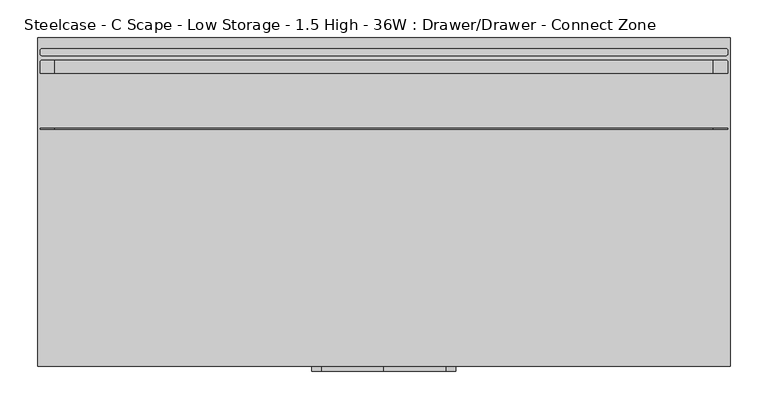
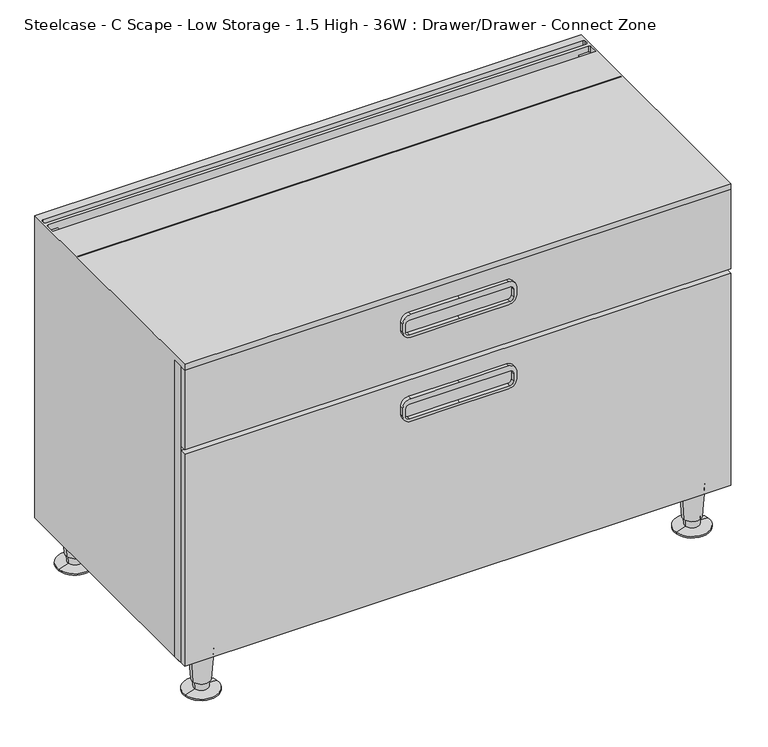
"""IFC4 building model written with IfcOpenShell, lengths in millimetres: furniture geometry, Steelcase - C Scape - Low Storage - 1.5 High - 36W : Drawer/Drawer - Connect Zone."""

from ifc_helpers import new_model, si_unit, point, frame, frame_2d, origin, place, context, project, spatial, polyline, circle_curve, trimmed, segment, composite_curve, outline, extrude, source, transform, mapped, element, save
from ifc_brep_helpers import plane_surface, cylinder_surface, revolved_surface, advanced_brep


def steelcase_c_scape_low_storage_1_5_high_36w_drawer_drawer_56496b48(model_context):
    return source(origin(), model_context, "Body", "SolidModel", [
        extrude(outline(polyline([(76.2, 0.0), (76.2, 913.13), (599.44, 913.13), (599.44, 0.0), (76.2, 0.0)]), holes=[polyline([(458.7875121, 891.1617285), (458.7875121, 21.3382324), (582.93, 21.3382324), (582.93, 891.1617285), (458.7875121, 891.1617285)]), polyline([(92.7100024, 891.1617285), (92.7100024, 21.3382324), (436.8419, 21.3382324), (436.8419, 891.1617285), (92.7100024, 891.1617285)])]), frame((0.0, -421.6443408, 0.0), z_axis=(0.0, 1.0, 0.0), x_axis=(0.0, 0.0, 1.0)), (0.0, 0.0, 1.0), 17.2762904),
        extrude(outline(composite_curve([segment(trimmed(circle_curve(frame_2d((558.165, 374.0147442)), 12.7), [point((570.865, 374.0147442))], [point((558.165, 361.3147442))], False, "CARTESIAN"), True, "CONTINUOUS"), segment(polyline([(558.165, 361.3147442), (543.5600291, 361.3147442)]), True, "CONTINUOUS"), segment(trimmed(circle_curve(frame_2d((543.5600291, 374.0147442)), 12.7), [point((543.5600291, 361.3147442))], [point((530.8600291, 374.0147442))], False, "CARTESIAN"), True, "CONTINUOUS"), segment(polyline([(530.8600291, 374.0147442), (530.8600291, 456.2475), (530.8600291, 538.4802558)]), True, "CONTINUOUS"), segment(trimmed(circle_curve(frame_2d((543.5600291, 538.4802558)), 12.7), [point((530.8600291, 538.4802558))], [point((543.5600291, 551.1802558))], False, "CARTESIAN"), True, "CONTINUOUS"), segment(polyline([(543.5600291, 551.1802558), (558.165, 551.1802558)]), True, "CONTINUOUS"), segment(trimmed(circle_curve(frame_2d((558.165, 538.4802558)), 12.7), [point((558.165, 551.1802558))], [point((570.865, 538.4802558))], False, "CARTESIAN"), True, "CONTINUOUS"), segment(polyline([(570.865, 538.4802558), (570.865, 456.2475), (570.865, 374.0147442)]), True, "CONTINUOUS")], self_intersect=False), holes=[composite_curve([segment(trimmed(circle_curve(frame_2d((554.7360184, 372.4923565)), 6.35), [point((554.7360184, 366.1423565))], [point((561.0860184, 372.4923565))], True, "CARTESIAN"), True, "CONTINUOUS"), segment(polyline([(561.0860184, 372.4923565), (561.0860184, 456.2475), (561.0860184, 540.0026435)]), True, "CONTINUOUS"), segment(trimmed(circle_curve(frame_2d((554.7360184, 540.0026435)), 6.35), [point((561.0860184, 540.0026435))], [point((554.7360184, 546.3526435))], True, "CARTESIAN"), True, "CONTINUOUS"), segment(polyline([(554.7360184, 546.3526435), (542.0360063, 546.3526435)]), True, "CONTINUOUS"), segment(trimmed(circle_curve(frame_2d((542.0360063, 540.0026435)), 6.35), [point((542.0360063, 546.3526435))], [point((535.6860063, 540.0026435))], True, "CARTESIAN"), True, "CONTINUOUS"), segment(polyline([(535.6860063, 540.0026435), (535.6860063, 456.2475), (535.6860063, 372.4923565)]), True, "CONTINUOUS"), segment(trimmed(circle_curve(frame_2d((542.0360063, 372.4923565)), 6.35), [point((535.6860063, 372.4923565))], [point((542.0360063, 366.1423565))], True, "CARTESIAN"), True, "CONTINUOUS"), segment(polyline([(542.0360063, 366.1423565), (554.7360184, 366.1423565)]), True, "CONTINUOUS")], self_intersect=False)]), frame((0.0, -439.42, 0.0), z_axis=(0.0, 1.0, 0.0), x_axis=(0.0, 0.0, 1.0)), (0.0, 0.0, 1.0), 6.35),
        extrude(outline(composite_curve([segment(trimmed(circle_curve(frame_2d((409.5749879, 374.0147442)), 12.7), [point((422.2749879, 374.0147442))], [point((409.5749879, 361.3147442))], False, "CARTESIAN"), True, "CONTINUOUS"), segment(polyline([(409.5749879, 361.3147442), (394.970017, 361.3147442)]), True, "CONTINUOUS"), segment(trimmed(circle_curve(frame_2d((394.970017, 374.0147442)), 12.7), [point((394.970017, 361.3147442))], [point((382.270017, 374.0147442))], False, "CARTESIAN"), True, "CONTINUOUS"), segment(polyline([(382.270017, 374.0147442), (382.270017, 456.2475), (382.270017, 538.4802558)]), True, "CONTINUOUS"), segment(trimmed(circle_curve(frame_2d((394.970017, 538.4802558)), 12.7), [point((382.270017, 538.4802558))], [point((394.970017, 551.1802558))], False, "CARTESIAN"), True, "CONTINUOUS"), segment(polyline([(394.970017, 551.1802558), (409.5749879, 551.1802558)]), True, "CONTINUOUS"), segment(trimmed(circle_curve(frame_2d((409.5749879, 538.4802558)), 12.7), [point((409.5749879, 551.1802558))], [point((422.2749879, 538.4802558))], False, "CARTESIAN"), True, "CONTINUOUS"), segment(polyline([(422.2749879, 538.4802558), (422.2749879, 456.2475), (422.2749879, 374.0147442)]), True, "CONTINUOUS")], self_intersect=False), holes=[composite_curve([segment(trimmed(circle_curve(frame_2d((406.1460063, 372.4923565)), 6.35), [point((406.1460063, 366.1423565))], [point((412.4960063, 372.4923565))], True, "CARTESIAN"), True, "CONTINUOUS"), segment(polyline([(412.4960063, 372.4923565), (412.4960063, 456.2475), (412.4960063, 540.0026435)]), True, "CONTINUOUS"), segment(trimmed(circle_curve(frame_2d((406.1460063, 540.0026435)), 6.35), [point((412.4960063, 540.0026435))], [point((406.1460063, 546.3526435))], True, "CARTESIAN"), True, "CONTINUOUS"), segment(polyline([(406.1460063, 546.3526435), (393.4459942, 546.3526435)]), True, "CONTINUOUS"), segment(trimmed(circle_curve(frame_2d((393.4459942, 540.0026435)), 6.35), [point((393.4459942, 546.3526435))], [point((387.0959942, 540.0026435))], True, "CARTESIAN"), True, "CONTINUOUS"), segment(polyline([(387.0959942, 540.0026435), (387.0959942, 456.2475), (387.0959942, 372.4923565)]), True, "CONTINUOUS"), segment(trimmed(circle_curve(frame_2d((393.4459942, 372.4923565)), 6.35), [point((387.0959942, 372.4923565))], [point((393.4459942, 366.1423565))], True, "CARTESIAN"), True, "CONTINUOUS"), segment(polyline([(393.4459942, 366.1423565), (406.1460063, 366.1423565)]), True, "CONTINUOUS")], self_intersect=False)]), frame((0.0, -439.42, 0.0), z_axis=(0.0, 1.0, 0.0), x_axis=(0.0, 0.0, 1.0)), (0.0, 0.0, 1.0), 6.35),
        advanced_brep(
        [(885.8598695, -31.5218435, 76.2), (848.1981305, -37.2840847, 76.2), (867.029, -34.4029641, 76.2), (881.9095214, -32.1262463, 19.05), (852.1484786, -36.6796819, 19.05), (879.4799345, -32.4979728, 19.05), (854.5780655, -36.3079555, 19.05), (878.791165, -32.6033544, 5.7545598), (855.266835, -36.2025738, 5.7545598), (896.1400485, -29.9489775, 2.5119506), (837.9179515, -38.8569507, 2.5119506), (896.1400485, -29.9489775, 0.0), (837.9179515, -38.8569507, 0.0), (867.029, -34.4029641, 0.0)],
        [
            (0, 1, circle_curve(frame((867.029, -34.4029641, 76.2), z_axis=(0.0, 0.0, 1.0), x_axis=(0.0, -1.0, 0.0)), 19.05)),
            (1, 2),
            (2, 0),
            (1, 0, circle_curve(frame((867.029, -34.4029641, 76.2), z_axis=(0.0, 0.0, 1.0), x_axis=(0.0, -1.0, 0.0)), 19.05)),
            (3, 4, circle_curve(frame((867.029, -34.4029641, 19.05), z_axis=(0.0, 0.0, 1.0), x_axis=(0.0, -1.0, 0.0)), 15.0536827)),
            (4, 1),
            (0, 3),
            (4, 3, circle_curve(frame((867.029, -34.4029641, 19.05), z_axis=(0.0, 0.0, 1.0), x_axis=(0.0, -1.0, 0.0)), 15.0536827)),
            (5, 6, circle_curve(frame((867.029, -34.4029641, 19.05), z_axis=(0.0, 0.0, 1.0), x_axis=(0.0, -1.0, 0.0)), 12.5958232)),
            (6, 4),
            (3, 5),
            (6, 5, circle_curve(frame((867.029, -34.4029641, 19.05), z_axis=(0.0, 0.0, 1.0), x_axis=(0.0, -1.0, 0.0)), 12.5958232)),
            (7, 8, circle_curve(frame((867.029, -34.4029641, 5.7545598), z_axis=(0.0, 0.0, 1.0), x_axis=(0.0, -1.0, 0.0)), 11.8990387)),
            (8, 6),
            (5, 7),
            (8, 7, circle_curve(frame((867.029, -34.4029641, 5.7545598), z_axis=(0.0, 0.0, 1.0), x_axis=(0.0, -1.0, 0.0)), 11.8990387)),
            (9, 10, circle_curve(frame((867.029, -34.4029641, 2.5119506), z_axis=(0.0, 0.0, 1.0), x_axis=(0.0, -1.0, 0.0)), 29.4498071)),
            (10, 8),
            (7, 9),
            (10, 9, circle_curve(frame((867.029, -34.4029641, 2.5119506), z_axis=(0.0, 0.0, 1.0), x_axis=(0.0, -1.0, 0.0)), 29.4498071)),
            (11, 12, circle_curve(frame((867.029, -34.4029641, 0.0), z_axis=(0.0, 0.0, 1.0), x_axis=(0.0, -1.0, 0.0)), 29.4498071)),
            (12, 10),
            (9, 11),
            (12, 11, circle_curve(frame((867.029, -34.4029641, 0.0), z_axis=(0.0, 0.0, 1.0), x_axis=(0.0, -1.0, 0.0)), 29.4498071)),
            (13, 12),
            (11, 13),
        ],
        [
            plane_surface(frame((867.029, -34.4029641, 76.2), z_axis=(0.0, 0.0, 1.0), x_axis=(0.0, -1.0, 0.0))),
            revolved_surface(polyline([(867.029, -53.4529641, 76.2), (867.029, -49.4566468, 19.05)]), (867.029, -34.4029641, 25.4), (0.0, 0.0, -1.0)),
            plane_surface(frame((867.029, -34.4029641, 19.05), z_axis=(0.0, 0.0, -1.0), x_axis=(0.0, -1.0, 0.0))),
            revolved_surface(polyline([(867.029, -46.9987873, 19.05), (867.029, -46.3020028, 5.7545598)]), (867.029, -34.4029641, 25.4), (0.0, 0.0, -1.0)),
            revolved_surface(polyline([(867.029, -46.3020028, 5.7545598), (867.029, -63.8527712, 2.5119506)]), (867.029, -34.4029641, 25.4), (0.0, 0.0, -1.0)),
            cylinder_surface(frame((867.029, -34.4029641, 25.4), z_axis=(0.0, 0.0, -1.0), x_axis=(0.0, -1.0, 0.0)), 29.4498071),
            plane_surface(frame((867.029, -34.4029641, 0.0), z_axis=(0.0, 0.0, -1.0), x_axis=(0.0, -1.0, 0.0))),
        ],
        [
            (0, [[1, 2, 3]]),
            (0, [[4, -3, -2]]),
            (1, [[5, 6, -1, 7]]),
            (1, [[8, -7, -4, -6]]),
            (2, [[9, 10, -5, 11]]),
            (2, [[12, -11, -8, -10]]),
            (3, [[13, 14, -9, 15]]),
            (3, [[16, -15, -12, -14]]),
            (4, [[17, 18, -13, 19]]),
            (4, [[20, -19, -16, -18]]),
            (5, [[21, 22, -17, 23]]),
            (5, [[24, -23, -20, -22]]),
            (6, [[25, -21, 26]]),
            (6, [[-26, -24, -25]]),
        ],
    ),
        advanced_brep(
        [(885.8598695, -397.1702762, 76.2), (848.1981305, -402.9325174, 76.2), (867.029, -400.0513968, 76.2), (881.9095214, -397.774679, 19.05), (852.1484786, -402.3281146, 19.05), (879.4799345, -398.1464055, 19.05), (854.5780655, -401.9563882, 19.05), (878.791165, -398.2517871, 5.7545598), (855.266835, -401.8510065, 5.7545598), (896.1400485, -395.5974102, 2.5119506), (837.9179515, -404.5053834, 2.5119506), (896.1400485, -395.5974102, 0.0), (837.9179515, -404.5053834, 0.0), (867.029, -400.0513968, 0.0)],
        [
            (0, 1, circle_curve(frame((867.029, -400.0513968, 76.2), z_axis=(0.0, 0.0, 1.0), x_axis=(0.0, -1.0, 0.0)), 19.05)),
            (1, 2),
            (2, 0),
            (1, 0, circle_curve(frame((867.029, -400.0513968, 76.2), z_axis=(0.0, 0.0, 1.0), x_axis=(0.0, -1.0, 0.0)), 19.05)),
            (3, 4, circle_curve(frame((867.029, -400.0513968, 19.05), z_axis=(0.0, 0.0, 1.0), x_axis=(0.0, -1.0, 0.0)), 15.0536827)),
            (4, 1),
            (0, 3),
            (4, 3, circle_curve(frame((867.029, -400.0513968, 19.05), z_axis=(0.0, 0.0, 1.0), x_axis=(0.0, -1.0, 0.0)), 15.0536827)),
            (5, 6, circle_curve(frame((867.029, -400.0513968, 19.05), z_axis=(0.0, 0.0, 1.0), x_axis=(0.0, -1.0, 0.0)), 12.5958232)),
            (6, 4),
            (3, 5),
            (6, 5, circle_curve(frame((867.029, -400.0513968, 19.05), z_axis=(0.0, 0.0, 1.0), x_axis=(0.0, -1.0, 0.0)), 12.5958232)),
            (7, 8, circle_curve(frame((867.029, -400.0513968, 5.7545598), z_axis=(0.0, 0.0, 1.0), x_axis=(0.0, -1.0, 0.0)), 11.8990387)),
            (8, 6),
            (5, 7),
            (8, 7, circle_curve(frame((867.029, -400.0513968, 5.7545598), z_axis=(0.0, 0.0, 1.0), x_axis=(0.0, -1.0, 0.0)), 11.8990387)),
            (9, 10, circle_curve(frame((867.029, -400.0513968, 2.5119506), z_axis=(0.0, 0.0, 1.0), x_axis=(0.0, -1.0, 0.0)), 29.4498071)),
            (10, 8),
            (7, 9),
            (10, 9, circle_curve(frame((867.029, -400.0513968, 2.5119506), z_axis=(0.0, 0.0, 1.0), x_axis=(0.0, -1.0, 0.0)), 29.4498071)),
            (11, 12, circle_curve(frame((867.029, -400.0513968, 0.0), z_axis=(0.0, 0.0, 1.0), x_axis=(0.0, -1.0, 0.0)), 29.4498071)),
            (12, 10),
            (9, 11),
            (12, 11, circle_curve(frame((867.029, -400.0513968, 0.0), z_axis=(0.0, 0.0, 1.0), x_axis=(0.0, -1.0, 0.0)), 29.4498071)),
            (13, 12),
            (11, 13),
        ],
        [
            plane_surface(frame((867.029, -400.0513968, 76.2), z_axis=(0.0, 0.0, 1.0), x_axis=(0.0, -1.0, 0.0))),
            revolved_surface(polyline([(867.029, -419.1013968, 76.2), (867.029, -415.1050795, 19.05)]), (867.029, -400.0513968, 25.4), (0.0, 0.0, -1.0)),
            plane_surface(frame((867.029, -400.0513968, 19.05), z_axis=(0.0, 0.0, -1.0), x_axis=(0.0, -1.0, 0.0))),
            revolved_surface(polyline([(867.029, -412.64722, 19.05), (867.029, -411.9504355, 5.7545598)]), (867.029, -400.0513968, 25.4), (0.0, 0.0, -1.0)),
            revolved_surface(polyline([(867.029, -411.9504355, 5.7545598), (867.029, -429.5012039, 2.5119506)]), (867.029, -400.0513968, 25.4), (0.0, 0.0, -1.0)),
            cylinder_surface(frame((867.029, -400.0513968, 25.4), z_axis=(0.0, 0.0, -1.0), x_axis=(0.0, -1.0, 0.0)), 29.4498071),
            plane_surface(frame((867.029, -400.0513968, 0.0), z_axis=(0.0, 0.0, -1.0), x_axis=(0.0, -1.0, 0.0))),
        ],
        [
            (0, [[1, 2, 3]]),
            (0, [[4, -3, -2]]),
            (1, [[5, 6, -1, 7]]),
            (1, [[8, -7, -4, -6]]),
            (2, [[9, 10, -5, 11]]),
            (2, [[12, -11, -8, -10]]),
            (3, [[13, 14, -9, 15]]),
            (3, [[16, -15, -12, -14]]),
            (4, [[17, 18, -13, 19]]),
            (4, [[20, -19, -16, -18]]),
            (5, [[21, 22, -17, 23]]),
            (5, [[24, -23, -20, -22]]),
            (6, [[25, -21, 26]]),
            (6, [[-26, -24, -25]]),
        ],
    ),
        advanced_brep(
        [(65.5422821, -397.1702762, 76.2), (27.8805432, -402.9325174, 76.2), (46.7114126, -400.0513968, 76.2), (61.5919341, -397.774679, 19.05), (31.8308912, -402.3281146, 19.05), (59.1623471, -398.1464055, 19.05), (34.2604781, -401.9563882, 19.05), (58.4735776, -398.2517871, 5.7545598), (34.9492476, -401.8510065, 5.7545598), (75.8224611, -395.5974102, 2.5119506), (17.6003641, -404.5053834, 2.5119506), (75.8224611, -395.5974102, 0.0), (17.6003641, -404.5053834, 0.0), (46.7114126, -400.0513968, 0.0)],
        [
            (0, 1, circle_curve(frame((46.7114126, -400.0513968, 76.2), z_axis=(0.0, 0.0, 1.0), x_axis=(0.0, -1.0, 0.0)), 19.05)),
            (1, 2),
            (2, 0),
            (1, 0, circle_curve(frame((46.7114126, -400.0513968, 76.2), z_axis=(0.0, 0.0, 1.0), x_axis=(0.0, -1.0, 0.0)), 19.05)),
            (3, 4, circle_curve(frame((46.7114126, -400.0513968, 19.05), z_axis=(0.0, 0.0, 1.0), x_axis=(0.0, -1.0, 0.0)), 15.0536827)),
            (4, 1),
            (0, 3),
            (4, 3, circle_curve(frame((46.7114126, -400.0513968, 19.05), z_axis=(0.0, 0.0, 1.0), x_axis=(0.0, -1.0, 0.0)), 15.0536827)),
            (5, 6, circle_curve(frame((46.7114126, -400.0513968, 19.05), z_axis=(0.0, 0.0, 1.0), x_axis=(0.0, -1.0, 0.0)), 12.5958232)),
            (6, 4),
            (3, 5),
            (6, 5, circle_curve(frame((46.7114126, -400.0513968, 19.05), z_axis=(0.0, 0.0, 1.0), x_axis=(0.0, -1.0, 0.0)), 12.5958232)),
            (7, 8, circle_curve(frame((46.7114126, -400.0513968, 5.7545598), z_axis=(0.0, 0.0, 1.0), x_axis=(0.0, -1.0, 0.0)), 11.8990387)),
            (8, 6),
            (5, 7),
            (8, 7, circle_curve(frame((46.7114126, -400.0513968, 5.7545598), z_axis=(0.0, 0.0, 1.0), x_axis=(0.0, -1.0, 0.0)), 11.8990387)),
            (9, 10, circle_curve(frame((46.7114126, -400.0513968, 2.5119506), z_axis=(0.0, 0.0, 1.0), x_axis=(0.0, -1.0, 0.0)), 29.4498071)),
            (10, 8),
            (7, 9),
            (10, 9, circle_curve(frame((46.7114126, -400.0513968, 2.5119506), z_axis=(0.0, 0.0, 1.0), x_axis=(0.0, -1.0, 0.0)), 29.4498071)),
            (11, 12, circle_curve(frame((46.7114126, -400.0513968, 0.0), z_axis=(0.0, 0.0, 1.0), x_axis=(0.0, -1.0, 0.0)), 29.4498071)),
            (12, 10),
            (9, 11),
            (12, 11, circle_curve(frame((46.7114126, -400.0513968, 0.0), z_axis=(0.0, 0.0, 1.0), x_axis=(0.0, -1.0, 0.0)), 29.4498071)),
            (13, 12),
            (11, 13),
        ],
        [
            plane_surface(frame((46.7114126, -400.0513968, 76.2), z_axis=(0.0, 0.0, 1.0), x_axis=(0.0, -1.0, 0.0))),
            revolved_surface(polyline([(46.7114126, -419.1013968, 76.2), (46.7114126, -415.1050795, 19.05)]), (46.7114126, -400.0513968, 25.4), (0.0, 0.0, -1.0)),
            plane_surface(frame((46.7114126, -400.0513968, 19.05), z_axis=(0.0, 0.0, -1.0), x_axis=(0.0, -1.0, 0.0))),
            revolved_surface(polyline([(46.7114126, -412.64722, 19.05), (46.7114126, -411.9504355, 5.7545598)]), (46.7114126, -400.0513968, 25.4), (0.0, 0.0, -1.0)),
            revolved_surface(polyline([(46.7114126, -411.9504355, 5.7545598), (46.7114126, -429.5012039, 2.5119506)]), (46.7114126, -400.0513968, 25.4), (0.0, 0.0, -1.0)),
            cylinder_surface(frame((46.7114126, -400.0513968, 25.4), z_axis=(0.0, 0.0, -1.0), x_axis=(0.0, -1.0, 0.0)), 29.4498071),
            plane_surface(frame((46.7114126, -400.0513968, 0.0), z_axis=(0.0, 0.0, -1.0), x_axis=(0.0, -1.0, 0.0))),
        ],
        [
            (0, [[1, 2, 3]]),
            (0, [[4, -3, -2]]),
            (1, [[5, 6, -1, 7]]),
            (1, [[8, -7, -4, -6]]),
            (2, [[9, 10, -5, 11]]),
            (2, [[12, -11, -8, -10]]),
            (3, [[13, 14, -9, 15]]),
            (3, [[16, -15, -12, -14]]),
            (4, [[17, 18, -13, 19]]),
            (4, [[20, -19, -16, -18]]),
            (5, [[21, 22, -17, 23]]),
            (5, [[24, -23, -20, -22]]),
            (6, [[25, -21, 26]]),
            (6, [[-26, -24, -25]]),
        ],
    ),
        advanced_brep(
        [(65.5422821, -31.5218435, 76.2), (27.8805432, -37.2840847, 76.2), (46.7114126, -34.4029641, 76.2), (61.5919341, -32.1262463, 19.05), (31.8308912, -36.6796819, 19.05), (59.1623471, -32.4979728, 19.05), (34.2604781, -36.3079555, 19.05), (58.4735776, -32.6033544, 5.7545598), (34.9492476, -36.2025738, 5.7545598), (75.8224611, -29.9489775, 2.5119506), (17.6003641, -38.8569507, 2.5119506), (75.8224611, -29.9489775, 0.0), (17.6003641, -38.8569507, 0.0), (46.7114126, -34.4029641, 0.0)],
        [
            (0, 1, circle_curve(frame((46.7114126, -34.4029641, 76.2), z_axis=(0.0, 0.0, 1.0), x_axis=(0.0, -1.0, 0.0)), 19.05)),
            (1, 2),
            (2, 0),
            (1, 0, circle_curve(frame((46.7114126, -34.4029641, 76.2), z_axis=(0.0, 0.0, 1.0), x_axis=(0.0, -1.0, 0.0)), 19.05)),
            (3, 4, circle_curve(frame((46.7114126, -34.4029641, 19.05), z_axis=(0.0, 0.0, 1.0), x_axis=(0.0, -1.0, 0.0)), 15.0536827)),
            (4, 1),
            (0, 3),
            (4, 3, circle_curve(frame((46.7114126, -34.4029641, 19.05), z_axis=(0.0, 0.0, 1.0), x_axis=(0.0, -1.0, 0.0)), 15.0536827)),
            (5, 6, circle_curve(frame((46.7114126, -34.4029641, 19.05), z_axis=(0.0, 0.0, 1.0), x_axis=(0.0, -1.0, 0.0)), 12.5958232)),
            (6, 4),
            (3, 5),
            (6, 5, circle_curve(frame((46.7114126, -34.4029641, 19.05), z_axis=(0.0, 0.0, 1.0), x_axis=(0.0, -1.0, 0.0)), 12.5958232)),
            (7, 8, circle_curve(frame((46.7114126, -34.4029641, 5.7545598), z_axis=(0.0, 0.0, 1.0), x_axis=(0.0, -1.0, 0.0)), 11.8990387)),
            (8, 6),
            (5, 7),
            (8, 7, circle_curve(frame((46.7114126, -34.4029641, 5.7545598), z_axis=(0.0, 0.0, 1.0), x_axis=(0.0, -1.0, 0.0)), 11.8990387)),
            (9, 10, circle_curve(frame((46.7114126, -34.4029641, 2.5119506), z_axis=(0.0, 0.0, 1.0), x_axis=(0.0, -1.0, 0.0)), 29.4498071)),
            (10, 8),
            (7, 9),
            (10, 9, circle_curve(frame((46.7114126, -34.4029641, 2.5119506), z_axis=(0.0, 0.0, 1.0), x_axis=(0.0, -1.0, 0.0)), 29.4498071)),
            (11, 12, circle_curve(frame((46.7114126, -34.4029641, 0.0), z_axis=(0.0, 0.0, 1.0), x_axis=(0.0, -1.0, 0.0)), 29.4498071)),
            (12, 10),
            (9, 11),
            (12, 11, circle_curve(frame((46.7114126, -34.4029641, 0.0), z_axis=(0.0, 0.0, 1.0), x_axis=(0.0, -1.0, 0.0)), 29.4498071)),
            (13, 12),
            (11, 13),
        ],
        [
            plane_surface(frame((46.7114126, -34.4029641, 76.2), z_axis=(0.0, 0.0, 1.0), x_axis=(0.0, -1.0, 0.0))),
            revolved_surface(polyline([(46.7114126, -53.4529641, 76.2), (46.7114126, -49.4566468, 19.05)]), (46.7114126, -34.4029641, 25.4), (0.0, 0.0, -1.0)),
            plane_surface(frame((46.7114126, -34.4029641, 19.05), z_axis=(0.0, 0.0, -1.0), x_axis=(0.0, -1.0, 0.0))),
            revolved_surface(polyline([(46.7114126, -46.9987873, 19.05), (46.7114126, -46.3020028, 5.7545598)]), (46.7114126, -34.4029641, 25.4), (0.0, 0.0, -1.0)),
            revolved_surface(polyline([(46.7114126, -46.3020028, 5.7545598), (46.7114126, -63.8527712, 2.5119506)]), (46.7114126, -34.4029641, 25.4), (0.0, 0.0, -1.0)),
            cylinder_surface(frame((46.7114126, -34.4029641, 25.4), z_axis=(0.0, 0.0, -1.0), x_axis=(0.0, -1.0, 0.0)), 29.4498071),
            plane_surface(frame((46.7114126, -34.4029641, 0.0), z_axis=(0.0, 0.0, -1.0), x_axis=(0.0, -1.0, 0.0))),
        ],
        [
            (0, [[1, 2, 3]]),
            (0, [[4, -3, -2]]),
            (1, [[5, 6, -1, 7]]),
            (1, [[8, -7, -4, -6]]),
            (2, [[9, 10, -5, 11]]),
            (2, [[12, -11, -8, -10]]),
            (3, [[13, 14, -9, 15]]),
            (3, [[16, -15, -12, -14]]),
            (4, [[17, 18, -13, 19]]),
            (4, [[20, -19, -16, -18]]),
            (5, [[21, 22, -17, 23]]),
            (5, [[24, -23, -20, -22]]),
            (6, [[25, -21, 26]]),
            (6, [[-26, -24, -25]]),
        ],
    ),
        advanced_brep(
        [(910.3272317, -120.6444193, 609.6), (910.3272317, -119.3775195, 609.6), (910.3272317, -119.3775195, 599.44), (910.3272317, -120.6444193, 599.44), (910.3272317, -46.4703418, 609.6), (910.3272317, -32.274699, 609.6), (910.3272317, -32.274699, 599.44), (910.3272317, -46.4703418, 599.44), (910.3272317, -20.3138654, 609.6), (910.3272317, -17.0388453, 609.6), (910.3272317, -17.0388453, 599.44), (910.3272317, -20.3138654, 599.44), (913.13, 0.0055807, 609.6), (913.13, -433.07, 609.6), (913.13, -433.07, 599.44), (913.13, -404.3680504, 599.44), (913.13, -404.3680504, 76.2), (913.13, 0.0, 76.2), (0.0, -433.07, 609.6), (-0.012551, 0.0055807, 609.6), (907.6308823, -29.5783496, 609.6), (2.7826272, -46.4703418, 609.6), (2.7826272, -32.0458511, 609.6), (5.2501287, -29.5783496, 609.6), (907.3507358, -23.2903613, 609.6), (5.5670648, -23.2903613, 609.6), (2.7826272, -20.5059237, 609.6), (2.7826272, -17.0388453, 609.6), (5.4794022, -14.3420703, 609.6), (907.6304567, -14.3420703, 609.6), (2.7826272, -119.3775195, 609.6), (2.7826272, -120.6444193, 609.6), (0.0, 0.0055807, 76.2), (571.8775189, 0.0055807, 466.2677968), (340.6174811, 0.0055807, 466.2677968), (340.6174811, 0.0055807, 432.6382043), (456.2475, 0.0055807, 432.6382043), (571.8775189, 0.0055807, 432.6382043), (571.8775189, -9.5194193, 466.2677968), (340.6174811, -9.5194193, 466.2677968), (571.8775189, -9.5194193, 450.8499879), (340.6174811, -9.5194193, 450.8499879), (5.2501287, -29.5783496, 599.44), (21.3256814, -29.5783496, 599.44), (21.3256814, -29.5783496, 458.7875121), (891.1617285, -29.5783496, 458.7875121), (891.1617285, -29.5783496, 599.44), (907.6308823, -29.5783496, 599.44), (891.1617285, -119.3775195, 599.44), (21.3256814, -119.3775195, 599.44), (21.3256814, -46.4703418, 599.44), (891.1617285, -46.4703418, 599.44), (907.3507358, -23.2903613, 599.44), (5.5670648, -23.2903613, 599.44), (2.7826272, -20.5059237, 599.44), (2.7826272, -32.0458511, 599.44), (2.7826272, -46.4703418, 599.44), (2.7826272, -119.3775195, 599.44), (5.4794022, -14.3420703, 599.44), (907.6304567, -14.3420703, 599.44), (2.7826272, -17.0388453, 599.44), (21.3256814, -120.6444193, 599.44), (2.7826272, -120.6444193, 599.44), (891.1617285, -120.6444193, 599.44), (21.3256814, -404.3680504, 92.7100024), (891.1617285, -404.3680504, 92.7100024), (891.1617285, -9.5194193, 92.7100024), (21.3256814, -9.5194193, 92.7100024), (0.0, -404.3680504, 76.2), (0.0, -404.3680504, 599.44), (0.0, -433.07, 599.44), (891.1617285, -404.3680504, 599.44), (891.1617285, -404.3680504, 458.7875121), (21.3256814, -404.3680504, 458.7875121), (21.3256814, -404.3680504, 599.44), (21.3256814, -404.3680504, 450.8499879), (891.1617285, -404.3680504, 450.8499879), (21.3256814, -126.9863574, 599.44), (891.1617285, -126.9863574, 599.44), (21.3256814, -126.9863574, 458.7875121), (891.1617285, -126.9863574, 458.7875121), (891.1617285, -120.6444193, 458.7875121), (21.3256814, -120.6444193, 458.7875121), (21.3256814, -9.5194193, 450.8499879), (891.1617285, -9.5194193, 450.8499879), (571.8775189, -9.5194193, 432.6382043), (456.2475, -9.5194193, 432.6382043), (340.6174811, -9.5194193, 432.6382043)],
        [
            (0, 1),
            (1, 2),
            (2, 3),
            (3, 0),
            (4, 5),
            (5, 6),
            (6, 7),
            (7, 4),
            (8, 9),
            (9, 10),
            (10, 11),
            (11, 8),
            (12, 13),
            (13, 14),
            (14, 15),
            (15, 16),
            (16, 17),
            (17, 12),
            (18, 13),
            (12, 19),
            (19, 18),
            (20, 5, circle_curve(frame((907.6308823, -32.274699, 609.6), z_axis=(0.0, 0.0, -1.0), x_axis=(1.0, 0.0, 0.0)), 2.6963494)),
            (4, 21),
            (21, 22),
            (22, 23, circle_curve(frame((5.2501287, -32.0458511, 609.6), z_axis=(0.0, 0.0, -1.0), x_axis=(1.0, 0.0, 0.0)), 2.4675015)),
            (23, 20),
            (8, 24, circle_curve(frame((907.3507358, -20.3138654, 609.6), z_axis=(0.0, 0.0, -1.0), x_axis=(1.0, 0.0, 0.0)), 2.9764959)),
            (24, 25),
            (25, 26, circle_curve(frame((5.5670648, -20.5059237, 609.6), z_axis=(0.0, 0.0, -1.0), x_axis=(1.0, 0.0, 0.0)), 2.7844376)),
            (26, 27),
            (27, 28, circle_curve(frame((5.4794022, -17.0388453, 609.6), z_axis=(0.0, 0.0, -1.0), x_axis=(1.0, 0.0, 0.0)), 2.696775)),
            (28, 29),
            (29, 9, circle_curve(frame((907.6304567, -17.0388453, 609.6), z_axis=(0.0, 0.0, -1.0), x_axis=(1.0, 0.0, 0.0)), 2.696775)),
            (30, 1),
            (0, 31),
            (31, 30),
            (17, 32),
            (32, 19),
            (33, 34),
            (34, 35),
            (35, 36),
            (36, 37),
            (37, 33),
            (33, 38),
            (38, 39),
            (39, 34),
            (38, 40),
            (40, 41),
            (41, 39),
            (23, 42),
            (42, 43),
            (43, 44),
            (44, 45),
            (45, 46),
            (46, 47),
            (47, 20),
            (48, 49),
            (49, 50),
            (50, 51),
            (51, 48),
            (47, 6, circle_curve(frame((907.6308823, -32.274699, 599.44), z_axis=(0.0, 0.0, -1.0), x_axis=(1.0, 0.0, 0.0)), 2.6963494)),
            (11, 52, circle_curve(frame((907.3507358, -20.3138654, 599.44), z_axis=(0.0, 0.0, -1.0), x_axis=(1.0, 0.0, 0.0)), 2.9764959)),
            (52, 24),
            (52, 53),
            (53, 25),
            (53, 54, circle_curve(frame((5.5670648, -20.5059237, 599.44), z_axis=(0.0, 0.0, -1.0), x_axis=(1.0, 0.0, 0.0)), 2.7844376)),
            (54, 26),
            (22, 55),
            (55, 42, circle_curve(frame((5.2501287, -32.0458511, 599.44), z_axis=(0.0, 0.0, -1.0), x_axis=(1.0, 0.0, 0.0)), 2.4675015)),
            (7, 51),
            (50, 56),
            (56, 21),
            (30, 57),
            (57, 49),
            (48, 2),
            (28, 58),
            (58, 59),
            (59, 29),
            (59, 10, circle_curve(frame((907.6304567, -17.0388453, 599.44), z_axis=(0.0, 0.0, -1.0), x_axis=(1.0, 0.0, 0.0)), 2.696775)),
            (27, 60),
            (60, 58, circle_curve(frame((5.4794022, -17.0388453, 599.44), z_axis=(0.0, 0.0, -1.0), x_axis=(1.0, 0.0, 0.0)), 2.696775)),
            (61, 49),
            (57, 62),
            (62, 61),
            (48, 63),
            (63, 3),
            (60, 54),
            (50, 43),
            (55, 56),
            (46, 51),
            (64, 65),
            (65, 66),
            (66, 67),
            (67, 64),
            (16, 68),
            (68, 32),
            (68, 69),
            (69, 70),
            (70, 18),
            (15, 71),
            (71, 72),
            (72, 73),
            (73, 74),
            (74, 69),
            (64, 75),
            (75, 76),
            (76, 65),
            (70, 14),
            (74, 77),
            (77, 78),
            (78, 71),
            (77, 79),
            (79, 80),
            (80, 78),
            (63, 81),
            (81, 82),
            (82, 61),
            (62, 31),
            (44, 82),
            (81, 45),
            (79, 73),
            (72, 80),
            (75, 83),
            (83, 41),
            (40, 84),
            (84, 76),
            (67, 83),
            (84, 66),
            (85, 86),
            (86, 87),
            (87, 41),
            (40, 85),
            (37, 85),
            (36, 86),
            (35, 87),
        ],
        [
            plane_surface(frame((910.3272317, -120.6444193, 609.6), z_axis=(-1.0, 0.0, 0.0), x_axis=(0.0, 0.0, 1.0))),
            plane_surface(frame((913.13, -120.6444193, 609.6), z_axis=(1.0, 0.0, 0.0), x_axis=(0.0, 0.0, -1.0))),
            plane_surface(frame((910.3272317, -120.6444193, 609.6), z_axis=(0.0, 0.0, 1.0), x_axis=(1.0, 0.0, 0.0))),
            plane_surface(frame((910.3272317, 0.0055807, 609.6), z_axis=(0.0, 1.0, 0.0), x_axis=(1.0, 0.0, 0.0))),
            plane_surface(frame((910.3272317, 0.0055807, 466.2677968), z_axis=(0.0, 0.0, -1.0), x_axis=(1.0, 0.0, 0.0))),
            plane_surface(frame((910.3272317, -9.5194193, 466.2677968), z_axis=(0.0, 1.0, 0.0), x_axis=(1.0, 0.0, 0.0))),
            plane_surface(frame((910.3272317, -29.5783496, 458.7875121), z_axis=(0.0, -1.0, 0.0), x_axis=(1.0, 0.0, 0.0))),
            plane_surface(frame((910.3272317, -29.5783496, 599.44), z_axis=(0.0, 0.0, -1.0), x_axis=(1.0, 0.0, 0.0))),
            revolved_surface(polyline([(910.3272317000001, -32.274699, 599.44), (910.3272317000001, -32.274699, 609.6)]), (907.6308823, -32.274699, 599.44), (0.0, 0.0, -1.0)),
            revolved_surface(polyline([(910.3272317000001, -20.3138654, 599.44), (910.3272317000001, -20.3138654, 609.6)]), (907.3507358, -20.3138654, 599.44), (0.0, 0.0, -1.0)),
            plane_surface(frame((907.3507358, -23.2903613, 609.6), z_axis=(0.0, 1.0, 0.0), x_axis=(0.0, 0.0, -1.0))),
            revolved_surface(polyline([(8.3515024, -20.5059237, 599.44), (8.3515024, -20.5059237, 609.6)]), (5.5670648, -20.5059237, 599.44), (0.0, 0.0, -1.0)),
            revolved_surface(polyline([(7.7176302, -32.0458511, 599.44), (7.7176302, -32.0458511, 609.6)]), (5.2501287, -32.0458511, 599.44), (0.0, 0.0, -1.0)),
            plane_surface(frame((910.3272317, -46.4703418, 609.6), z_axis=(0.0, 1.0, 0.0), x_axis=(0.0, 0.0, -1.0))),
            plane_surface(frame((2.7826272, -119.3775195, 609.6), z_axis=(0.0, -1.0, 0.0), x_axis=(0.0, 0.0, -1.0))),
            plane_surface(frame((5.4794022, -14.3420703, 609.6), z_axis=(0.0, -1.0, 0.0), x_axis=(0.0, 0.0, -1.0))),
            revolved_surface(polyline([(910.3272317, -17.0388453, 599.44), (910.3272317, -17.0388453, 609.6)]), (907.6304567, -17.0388453, 41.6295811), (0.0, 0.0, -1.0)),
            revolved_surface(polyline([(8.1761772, -17.0388453, 599.44), (8.1761772, -17.0388453, 609.6)]), (5.4794022, -17.0388453, 41.6295811), (0.0, 0.0, -1.0)),
            plane_surface(frame((910.3272317, 0.0055807, 599.44), z_axis=(0.0, 0.0, 1.0), x_axis=(-1.0, 0.0, 0.0))),
            plane_surface(frame((0.0, 0.0, 92.7100024), z_axis=(0.0, 0.0, 1.0), x_axis=(-1.0, 0.0, 0.0))),
            plane_surface(frame((0.0, 0.0, 76.2), z_axis=(0.0, 0.0, -1.0), x_axis=(1.0, 0.0, 0.0))),
            plane_surface(frame((0.0, 0.0, 92.7100024), z_axis=(-1.0, 0.0, 0.0), x_axis=(0.0, 0.0, -1.0))),
            plane_surface(frame((0.0, -404.3680504, 92.7100024), z_axis=(0.0, -1.0, 0.0), x_axis=(0.0, 0.0, -1.0))),
            plane_surface(frame((913.13, -433.07, 609.6), z_axis=(0.0, -1.0, 0.0), x_axis=(-1.0, 0.0, 0.0))),
            plane_surface(frame((913.13, -433.07, 599.44), z_axis=(0.0, 0.0, -1.0), x_axis=(-1.0, 0.0, 0.0))),
            plane_surface(frame((913.13, -126.9863574, 599.44), z_axis=(0.0, -1.0, 0.0), x_axis=(-1.0, 0.0, 0.0))),
            plane_surface(frame((913.13, -120.6444193, 457.1999955), z_axis=(0.0, 1.0, 0.0), x_axis=(-1.0, 0.0, 0.0))),
            plane_surface(frame((0.0, -9.5194193, 458.7875121), z_axis=(0.0, 0.0, 1.0), x_axis=(-1.0, 0.0, 0.0))),
            plane_surface(frame((0.0, -9.5194193, 450.8499879), z_axis=(0.0, 0.0, -1.0), x_axis=(1.0, 0.0, 0.0))),
            plane_surface(frame((21.3256814, -404.3680504, 599.44), z_axis=(1.0, 0.0, 0.0), x_axis=(0.0, 0.0, -1.0))),
            plane_surface(frame((891.1617285, -9.5194193, 599.44), z_axis=(-1.0, 0.0, 0.0), x_axis=(0.0, 0.0, -1.0))),
            plane_surface(frame((2.7826272, -120.6444193, 599.44), z_axis=(1.0, 0.0, 0.0), x_axis=(0.0, 1.0, 0.0))),
            plane_surface(frame((571.8775189, -9.5194193, 459.9177968), z_axis=(0.0, -1.0, 0.0), x_axis=(0.0, 0.0, -1.0))),
            plane_surface(frame((571.8775189, -9.5194193, 466.2677968), z_axis=(-1.0, 0.0, 0.0), x_axis=(0.0, 1.0, 0.0))),
            plane_surface(frame((571.8775189, -9.5194193, 432.6382043), z_axis=(0.0, 0.0, 1.0), x_axis=(0.0, 1.0, 0.0))),
            plane_surface(frame((456.2475, -9.5194193, 432.6382043), z_axis=(0.0, 0.0, 1.0), x_axis=(0.0, 1.0, 0.0))),
            plane_surface(frame((340.6174811, -9.5194193, 432.6382043), z_axis=(1.0, 0.0, 0.0), x_axis=(0.0, 1.0, 0.0))),
        ],
        [
            (0, [[1, 2, 3, 4]]),
            (0, [[5, 6, 7, 8]]),
            (0, [[9, 10, 11, 12]]),
            (1, [[13, 14, 15, 16, 17, 18]]),
            (2, [[19, -13, 20, 21], [22, -5, 23, 24, 25, 26], [27, 28, 29, 30, 31, 32, 33, -9], [34, -1, 35, 36]]),
            (3, [[-18, 37, 38, -20], [39, 40, 41, 42, 43]]),
            (4, [[-39, 44, 45, 46]]),
            (5, [[-45, 47, 48, 49]]),
            (6, [[-26, 50, 51, 52, 53, 54, 55, 56]]),
            (7, [[57, 58, 59, 60]]),
            (8, [[-22, -56, 61, -6]]),
            (9, [[-27, -12, 62, 63]]),
            (10, [[-28, -63, 64, 65]]),
            (11, [[-29, -65, 66, 67]]),
            (12, [[-25, 68, 69, -50]]),
            (13, [[-23, -8, 70, -59, 71, 72]]),
            (14, [[-34, 73, 74, -57, 75, -2]]),
            (15, [[-32, 76, 77, 78]]),
            (16, [[-33, -78, 79, -10]]),
            (17, [[-31, 80, 81, -76]]),
            (18, [[82, -74, 83, 84]]),
            (18, [[85, 86, -3, -75]]),
            (18, [[-11, -79, -77, -81, 87, -66, -64, -62]]),
            (18, [[88, -51, -69, 89, -71]]),
            (18, [[90, -70, -7, -61, -55]]),
            (19, [[91, 92, 93, 94]]),
            (20, [[-17, 95, 96, -37]]),
            (21, [[-38, -96, 97, 98, 99, -21]]),
            (22, [[-95, -16, 100, 101, 102, 103, 104, -97], [-91, 105, 106, 107]]),
            (23, [[-14, -19, -99, 108]]),
            (24, [[-108, -98, -104, 109, 110, 111, -100, -15]]),
            (25, [[-110, 112, 113, 114]]),
            (26, [[-4, -86, 115, 116, 117, -84, 118, -35]]),
            (27, [[-53, 119, -116, 120]]),
            (27, [[-113, 121, -102, 122]]),
            (28, [[-106, 123, 124, -48, 125, 126]]),
            (29, [[-103, -121, -112, -109]]),
            (29, [[-105, -94, 127, -123]]),
            (29, [[-88, -58, -82, -117, -119, -52]]),
            (30, [[-101, -111, -114, -122]]),
            (30, [[-107, -126, 128, -92]]),
            (30, [[-90, -54, -120, -115, -85, -60]]),
            (31, [[-24, -72, -89, -68]]),
            (31, [[-30, -67, -87, -80]]),
            (31, [[-36, -118, -83, -73]]),
            (32, [[129, 130, 131, -124, -127, -93, -128, -125, 132]]),
            (33, [[-43, 133, -132, -47, -44]]),
            (34, [[-129, -133, -42, 134]]),
            (35, [[-130, -134, -41, 135]]),
            (36, [[-40, -46, -49, -131, -135]]),
        ],
    ),
        extrude(outline(polyline([(913.13, -421.6443408), (913.13, -433.07), (0.0, -433.07), (0.0, -421.6443408), (913.13, -421.6443408)])), frame((0.0, 0.0, 458.7875121), z_axis=(0.0, 0.0, 1.0), x_axis=(1.0, 0.0, 0.0)), (0.0, 0.0, 1.0), 140.6524879),
        extrude(outline(polyline([(913.13, -404.3680504), (913.13, -433.07), (0.0, -433.07), (0.0, -404.3680504), (913.13, -404.3680504)])), frame((0.0, 0.0, 76.2), z_axis=(0.0, 0.0, 1.0), x_axis=(1.0, 0.0, 0.0)), (0.0, 0.0, 1.0), 374.6499879),
    ])


if __name__ == "__main__":
    model = new_model("IFC4")
    model_context = context("Model", 3, world=origin())
    ifc_project = project(units=[si_unit("LENGTHUNIT", "METRE", prefix="MILLI")], contexts=[model_context])
    site = spatial("IfcSite", under=ifc_project)
    building = spatial("IfcBuilding", under=site)
    placement = place(None, origin())
    steelcase_c_scape_low_storage_1_5_high_36w_drawer_drawer_shape = steelcase_c_scape_low_storage_1_5_high_36w_drawer_drawer_56496b48(model_context)
    element("IfcFurniture", 1, ObjectType="Steelcase - C Scape - Low Storage - 1.5 High - 36W : Drawer/Drawer - Connect Zone", at=placement, inside=building, context=model_context, shape_type="MappedRepresentation", body=[
        mapped(steelcase_c_scape_low_storage_1_5_high_36w_drawer_drawer_shape, transform((0.0, 0.0, 0.0), x_axis=(1.0, 0.0, 0.0), y_axis=(0.0, 1.0, 0.0), z_axis=(0.0, 0.0, 1.0))),
    ])
    save(model, "model.ifc")
